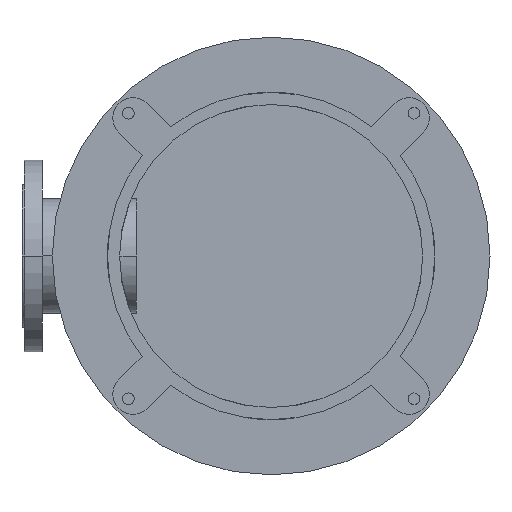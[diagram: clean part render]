
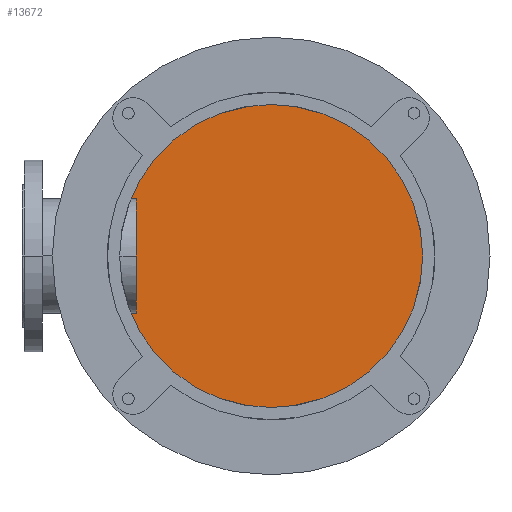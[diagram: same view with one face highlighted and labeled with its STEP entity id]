
A CAD part, front view. The second image highlights one B-rep face of the part: STEP entity #13672.
In plain terms, the highlighted planar face has unit normal (0, -1, 0).
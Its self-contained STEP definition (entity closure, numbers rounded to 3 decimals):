
#3271=CARTESIAN_POINT('',(0.,668.,0.));
#3272=DIRECTION('',(0.,-1.,0.));
#3273=DIRECTION('',(0.,0.,1.));
#3274=AXIS2_PLACEMENT_3D('',#3271,#3272,#3273);
#3440=CARTESIAN_POINT('',(0.,668.,0.));
#3441=DIRECTION('',(0.,-1.,0.));
#3442=DIRECTION('',(0.,0.,-1.));
#3443=AXIS2_PLACEMENT_3D('',#3440,#3441,#3442);
#8606=CARTESIAN_POINT('',(0.,668.,240.));
#8607=CARTESIAN_POINT('',(0.,668.,-240.));
#8608=VERTEX_POINT('',#8606);
#8609=VERTEX_POINT('',#8607);
#13662=CARTESIAN_POINT('',(0.,668.,0.));
#13663=DIRECTION('',(0.,1.,0.));
#13664=DIRECTION('',(0.,0.,-1.));
#13665=AXIS2_PLACEMENT_3D('',#13662,#13663,#13664);
#13666=PLANE('',#13665);
#13667=ORIENTED_EDGE('',*,*,#13640,.F.);
#13669=ORIENTED_EDGE('',*,*,#13668,.F.);
#13670=EDGE_LOOP('',(#13667,#13669));
#13671=FACE_OUTER_BOUND('',#13670,.F.);
#13672=ADVANCED_FACE('',(#13671),#13666,.F.);
#3275=CIRCLE('',#3274,240.);
#3444=CIRCLE('',#3443,240.);
#13640=EDGE_CURVE('',#8608,#8609,#3275,.T.);
#13668=EDGE_CURVE('',#8609,#8608,#3444,.T.);
